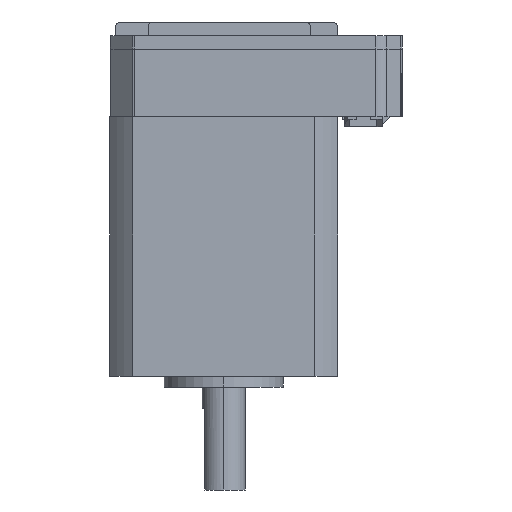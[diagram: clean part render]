
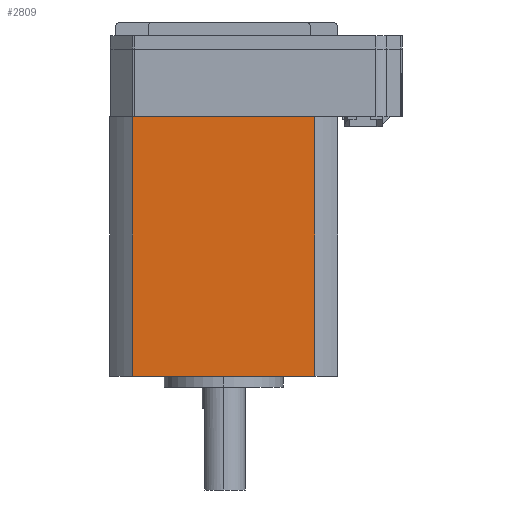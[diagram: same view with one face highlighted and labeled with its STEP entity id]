
A CAD part, left-side view. The second image highlights one B-rep face of the part: STEP entity #2809.
In plain terms, the highlighted planar face has unit normal (-1, 0, 0) as drawn and (1, 0, 0) by its records, which use the part's own axes.
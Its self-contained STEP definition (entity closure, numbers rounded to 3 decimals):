
#1465 = LINE ( 'NONE', #23285, #16575 ) ;
#2809 = ADVANCED_FACE ( 'NONE', ( #28242 ), #13897, .F. ) ;
#3646 = VECTOR ( 'NONE', #28141, 1000. ) ;
#6579 = VERTEX_POINT ( 'NONE', #8996 ) ;
#7431 = EDGE_CURVE ( 'NONE', #30477, #26355, #8782, .T. ) ;
#8782 = LINE ( 'NONE', #19325, #12881 ) ;
#8996 = CARTESIAN_POINT ( 'NONE',  ( 21.1, -16.846, 48. ) ) ;
#9003 = DIRECTION ( 'NONE',  ( 0., 0., -1. ) ) ;
#9800 = ORIENTED_EDGE ( 'NONE', *, *, #23622, .T. ) ;
#12016 = LINE ( 'NONE', #40642, #13168 ) ;
#12881 = VECTOR ( 'NONE', #9003, 1000. ) ;
#13168 = VECTOR ( 'NONE', #37351, 1000. ) ;
#13249 = EDGE_CURVE ( 'NONE', #6579, #17085, #12016, .T. ) ;
#13798 = CARTESIAN_POINT ( 'NONE',  ( 21.1, 16.846, 48. ) ) ;
#13897 = PLANE ( 'NONE',  #41184 ) ;
#16575 = VECTOR ( 'NONE', #29855, 1000. ) ;
#17085 = VERTEX_POINT ( 'NONE', #36118 ) ;
#19325 = CARTESIAN_POINT ( 'NONE',  ( 21.1, 16.846, 48. ) ) ;
#22429 = ORIENTED_EDGE ( 'NONE', *, *, #7431, .F. ) ;
#23285 = CARTESIAN_POINT ( 'NONE',  ( 21.1, 16.846, 0. ) ) ;
#23622 = EDGE_CURVE ( 'NONE', #17085, #26355, #1465, .T. ) ;
#26355 = VERTEX_POINT ( 'NONE', #40494 ) ;
#26356 = CARTESIAN_POINT ( 'NONE',  ( 21.1, 16.846, 48. ) ) ;
#28141 = DIRECTION ( 'NONE',  ( 0., 1., 0. ) ) ;
#28242 = FACE_OUTER_BOUND ( 'NONE', #34893, .T. ) ;
#29855 = DIRECTION ( 'NONE',  ( 0., 1., 0. ) ) ;
#30477 = VERTEX_POINT ( 'NONE', #26356 ) ;
#31058 = DIRECTION ( 'NONE',  ( -1., 0., 0. ) ) ;
#31395 = ORIENTED_EDGE ( 'NONE', *, *, #43421, .F. ) ;
#31759 = CARTESIAN_POINT ( 'NONE',  ( 21.1, 16.846, 48. ) ) ;
#34893 = EDGE_LOOP ( 'NONE', ( #9800, #22429, #31395, #38628 ) ) ;
#35048 = DIRECTION ( 'NONE',  ( 0., -1., 0. ) ) ;
#36118 = CARTESIAN_POINT ( 'NONE',  ( 21.1, -16.846, 0. ) ) ;
#37351 = DIRECTION ( 'NONE',  ( 0., 0., -1. ) ) ;
#38628 = ORIENTED_EDGE ( 'NONE', *, *, #13249, .T. ) ;
#40494 = CARTESIAN_POINT ( 'NONE',  ( 21.1, 16.846, 0. ) ) ;
#40642 = CARTESIAN_POINT ( 'NONE',  ( 21.1, -16.846, 48. ) ) ;
#41184 = AXIS2_PLACEMENT_3D ( 'NONE', #31759, #31058, #35048 ) ;
#43421 = EDGE_CURVE ( 'NONE', #6579, #30477, #45696, .T. ) ;
#45696 = LINE ( 'NONE', #13798, #3646 ) ;
